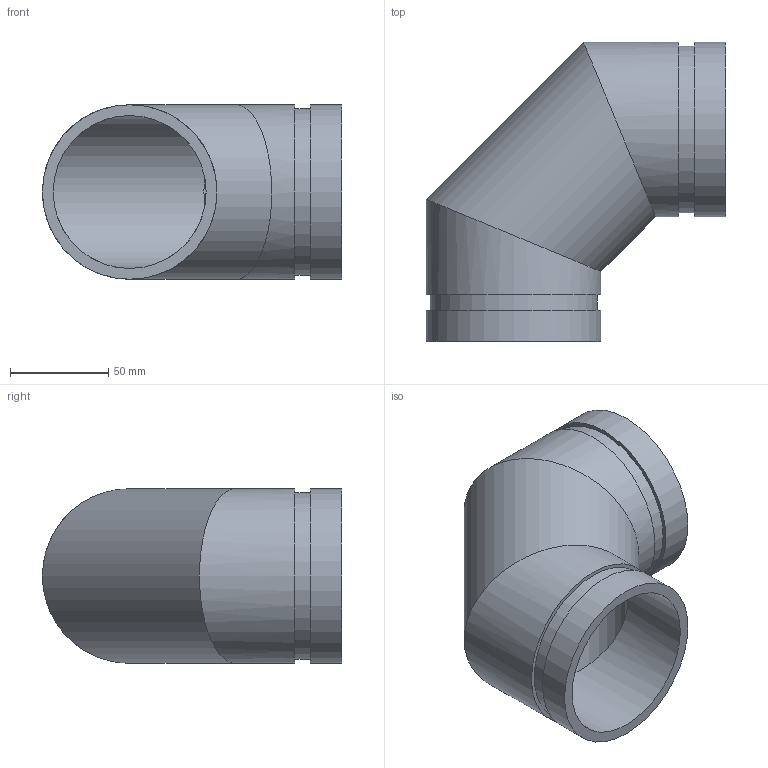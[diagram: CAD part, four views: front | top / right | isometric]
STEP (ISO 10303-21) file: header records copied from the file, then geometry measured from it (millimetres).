
FILE_DESCRIPTION(/* description */ ('VIC 90 DEG ELBOW FABRICATED No 10 SWS (OGS)','CAx-IF Rec.Pracs.---Representation and Presentation of Product Manufacturing Information (PMI)---4.0---2014-10-13'),/* implementation_level */ '2;1');
FILE_NAME(/* name */ 'C:\Users\kkamble\AppData\Roaming\Autodesk\ApplicationPlugins\Back Up\Victaulic_IPS_Elbow 90 Deg_No 10 SWS (OGS)\Victaulic_IPS_Elbow 90 Deg_No 10 SWS (OGS)_3 (80).stp',/* time_stamp */ '2020-09-16T22:17:35+06:00',/* author */ ('cgray'),/* organization */ ('Victaulic'),/* preprocessor_version */ 'ST-DEVELOPER v17.2',/* originating_system */ 'Autodesk Inventor 2019',/* authorisation */ '');
FILE_SCHEMA (('AP242_MANAGED_MODEL_BASED_3D_ENGINEERING_MIM_LF { 1 0 10303 442 1 1 4 }'));
Length unit declared in the file: inch
Products named in the file (1): 10 SWS-03.0
Bounding box: 152.4 x 152.4 x 88.9 mm (x, y, z)
Volume: 256344.1 mm3; surface area: 101424.4 mm2
Topology: 1 solids, 1 shells, 16 faces, 38 edges, 28 vertices
Faces by surface type: cylinder 10, plane 6
Full cylindrical faces by diameter (mm): 77.927 x3, 84.938 x2, 88.9 x5
Entity records: 646 total; most frequent: DIRECTION 126, CARTESIAN_POINT 100, ORIENTED_EDGE 76, AXIS2_PLACEMENT_3D 58, EDGE_CURVE 38, VERTEX_POINT 28, EDGE_LOOP 22, STYLED_ITEM 18
